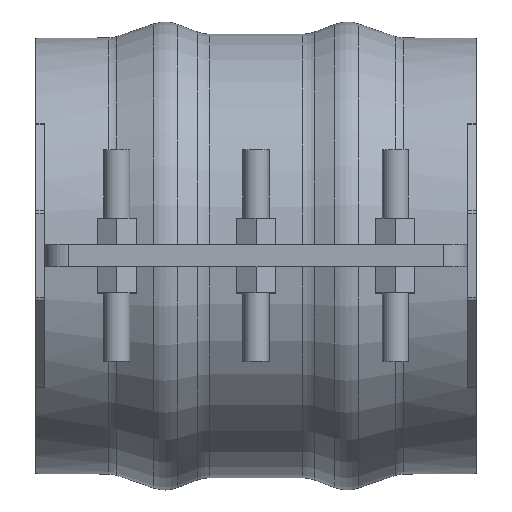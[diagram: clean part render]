
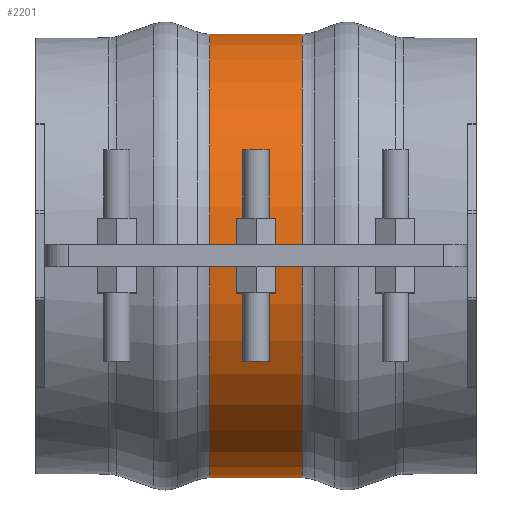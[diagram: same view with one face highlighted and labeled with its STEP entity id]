
A CAD part, top view. The second image highlights one B-rep face of the part: STEP entity #2201.
In plain terms, the highlighted cylindrical face has radius 159.917 mm (diameter 319.834 mm), a partial arc.
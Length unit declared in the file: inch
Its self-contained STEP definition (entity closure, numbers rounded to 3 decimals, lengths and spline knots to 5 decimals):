
#257=FACE_OUTER_BOUND('',#382,.T.);
#382=EDGE_LOOP('',(#1818,#1819,#1820,#1821));
#574=LINE('',#3580,#753);
#577=LINE('',#3657,#756);
#753=VECTOR('',#2893,0.3937);
#756=VECTOR('',#2904,0.3937);
#816=CIRCLE('',#2384,6.29594);
#817=CIRCLE('',#2386,6.29594);
#1017=VERTEX_POINT('',#3572);
#1018=VERTEX_POINT('',#3579);
#1029=VERTEX_POINT('',#3649);
#1030=VERTEX_POINT('',#3656);
#1290=EDGE_CURVE('',#1018,#1017,#574,.T.);
#1305=EDGE_CURVE('',#1030,#1029,#577,.T.);
#1316=EDGE_CURVE('',#1018,#1029,#816,.T.);
#1317=EDGE_CURVE('',#1017,#1030,#817,.T.);
#1818=ORIENTED_EDGE('',*,*,#1290,.T.);
#1819=ORIENTED_EDGE('',*,*,#1317,.T.);
#1820=ORIENTED_EDGE('',*,*,#1305,.T.);
#1821=ORIENTED_EDGE('',*,*,#1316,.F.);
#1994=CYLINDRICAL_SURFACE('',#2385,6.29594);
#2201=ADVANCED_FACE('',(#257),#1994,.T.);
#2384=AXIS2_PLACEMENT_3D('',#3701,#2925,#2926);
#2385=AXIS2_PLACEMENT_3D('',#3702,#2927,#2928);
#2386=AXIS2_PLACEMENT_3D('',#3703,#2929,#2930);
#2893=DIRECTION('',(-1.,0.,0.));
#2904=DIRECTION('',(1.,0.,0.));
#2925=DIRECTION('center_axis',(1.,0.,0.));
#2926=DIRECTION('ref_axis',(0.,0.,-1.));
#2927=DIRECTION('center_axis',(1.,0.,0.));
#2928=DIRECTION('ref_axis',(0.,0.,
-1.));
#2929=DIRECTION('center_axis',(1.,0.,0.));
#2930=DIRECTION('ref_axis',(0.,0.,-1.));
#3572=CARTESIAN_POINT('',(-1.31466,-0.3125,6.28818));
#3579=CARTESIAN_POINT('',(1.31466,-0.3125,6.28818));
#3580=CARTESIAN_POINT('',(0.,-0.3125,6.28818));
#3649=CARTESIAN_POINT('',(1.31466,0.3125,6.28818));
#3656=CARTESIAN_POINT('',(-1.31466,0.3125,6.28818));
#3657=CARTESIAN_POINT('',(0.,0.3125,6.28818));
#3701=CARTESIAN_POINT('Origin',(1.31466,0.,0.));
#3702=CARTESIAN_POINT('Origin',(0.,0.,0.));
#3703=CARTESIAN_POINT('Origin',(-1.31466,0.,
0.));
